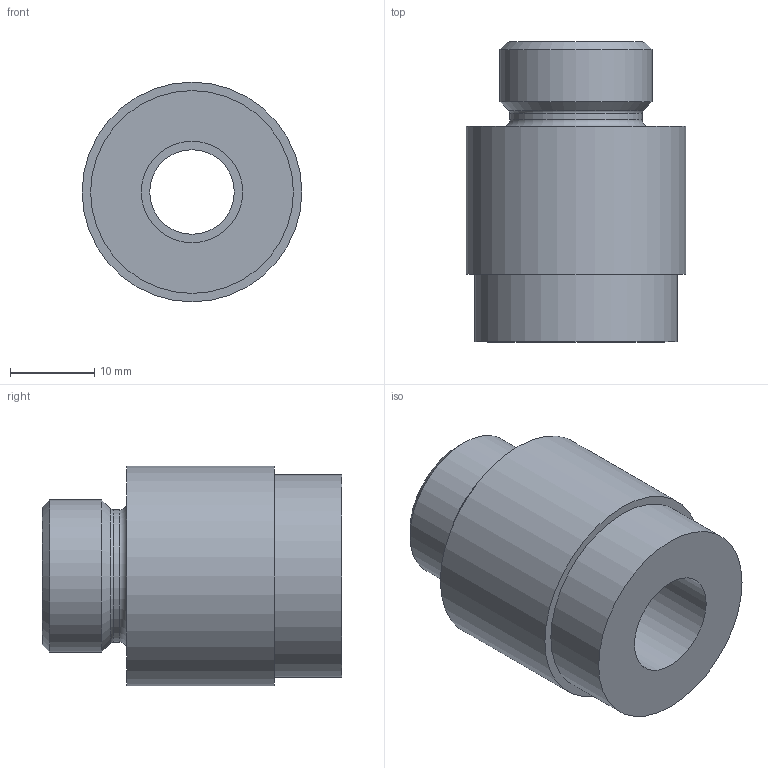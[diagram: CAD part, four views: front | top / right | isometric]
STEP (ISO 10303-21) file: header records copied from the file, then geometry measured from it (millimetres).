
FILE_DESCRIPTION( ( 'STEP AP203' ), ' ' );
FILE_NAME( 'p:/temp/worker_641/4372_4396/app_45_02016062011303011508526192d056f_000000_00_00_000000/format_1/E40124.stp', '2016-06-20T09:30:30', ( '' ), ( '' ), ' ', 'PARTsolutions', ' ' );
FILE_SCHEMA( ( 'CONFIG_CONTROL_DESIGN' ) );
Length unit declared in the file: millimetre
Products named in the file (1): _E40124
Bounding box: 26 x 35.5 x 26 mm (x, y, z)
Volume: 11676.7 mm3; surface area: 4753.4 mm2
Topology: 1 solids, 1 shells, 16 faces, 27 edges, 16 vertices
Faces by surface type: cylinder 6, plane 5, cone 3, torus 2
Full cylindrical faces by diameter (mm): 10 x1, 12 x1, 15.7 x1, 18 x1, 24 x1, 26 x1
Entity records: 372 total; most frequent: DIRECTION 66, CARTESIAN_POINT 49, AXIS2_PLACEMENT_3D 33, EDGE_LOOP 32, ORIENTED_EDGE 32, FACE_OUTER_BOUND 24, ADVANCED_FACE 16, EDGE_CURVE 16
